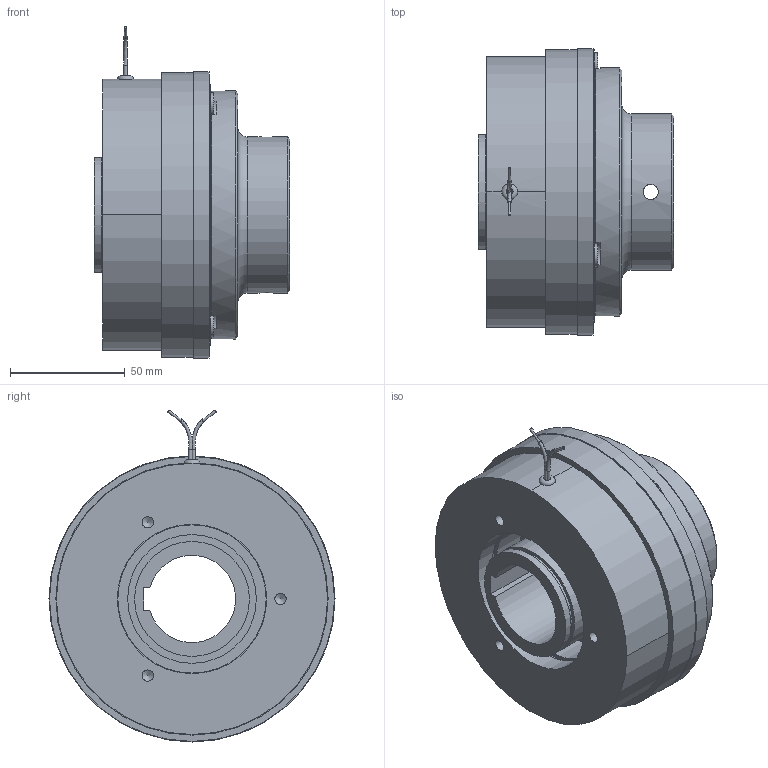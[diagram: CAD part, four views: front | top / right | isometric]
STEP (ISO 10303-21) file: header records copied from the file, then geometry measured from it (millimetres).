
FILE_DESCRIPTION(/* description */ (''),/* implementation_level */ '2;1');
FILE_NAME(/* name */ 'X:\INVENTOR\DISEGNI\08_Freni_Friz_Elettmag_Monodisco\08_26 EMSL_DF\EMSL_DF STEP\08_26_120_22 EMSL120_DF-BM-ME@STEP.stp',/* time_stamp */ '2018-04-24T08:57:44+02:00',/* author */ ('stefano'),/* organization */ (''),/* preprocessor_version */ 'ST-DEVELOPER v17',/* originating_system */ 'Autodesk Inventor 2018',/* authorisation */ '');
FILE_SCHEMA (('AUTOMOTIVE_DESIGN { 1 0 10303 214 3 1 1 }'));
Length unit declared in the file: millimetre
Products named in the file (1): 08_26_120_22 EMSL120_DF-BM-ME_Substitute_1
Bounding box: 85 x 124.5 x 144.47 mm (x, y, z)
Volume: 530077.8 mm3; surface area: 124029.3 mm2
Topology: 4 solids, 4 shells, 268 faces, 748 edges, 521 vertices
Faces by surface type: cylinder 161, plane 79, cone 21, torus 5, bspline 2
Full cylindrical faces by diameter (mm): 1.154 x2, 1.5 x1, 2.2 x3, 4.917 x6, 6 x1, 6.1 x3, 6.647 x2, 7.5 x3, 10 x3, 10.5 x3, 12 x3, 47 x1, 50 x2, 56 x1, 64.5 x1, 65 x2, 68 x2, 77 x1, 108 x1, 110.5 x1, 118.5 x1, 124 x1, 124.5 x1
Entity records: 9652 total; most frequent: CARTESIAN_POINT 1948, DIRECTION 1693, ORIENTED_EDGE 1486, EDGE_CURVE 743, AXIS2_PLACEMENT_3D 726, VERTEX_POINT 522, CIRCLE 459, EDGE_LOOP 365
